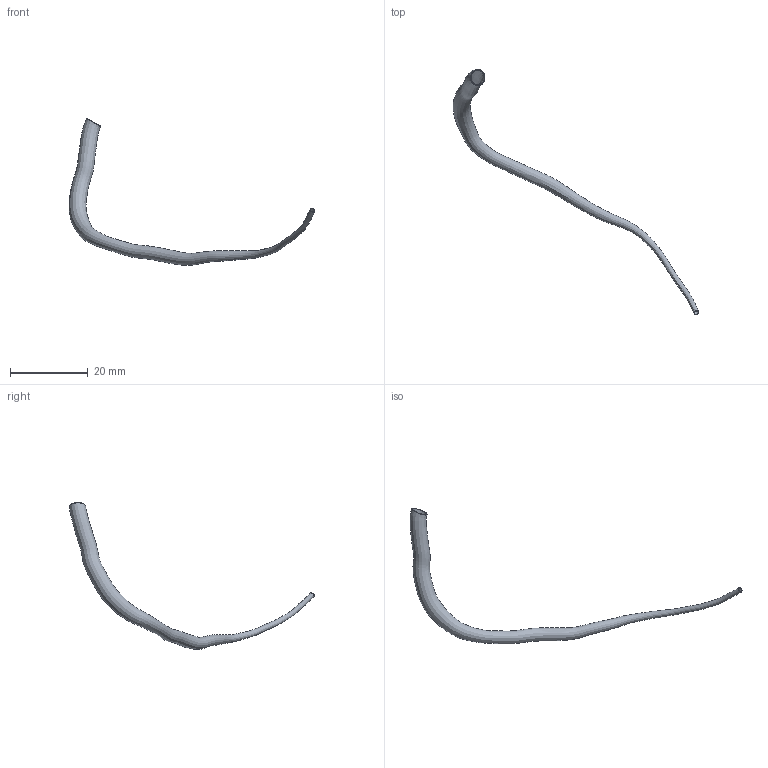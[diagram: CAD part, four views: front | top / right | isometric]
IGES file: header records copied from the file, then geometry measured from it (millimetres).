
Global section: file name: C:\Documents and Settings\Administrator\Desktop\FDA-Pig\Domestic LCA\Pig_000006\lad.seg.ed.igs; native system: Rhinoceros ( May 19 2006 ); preprocessor: Trout Lake IGES 012 May 19 2006; date: 111205.183533; units: centimetre
Bounding box: 63.37 x 63.17 x 37.89 mm (x, y, z)
Surface area: 2094 mm2 (no closed solid volume)
Topology: 0 solids, 0 shells, 4 faces, 13 edges, 10 vertices
Faces by surface type: bspline 4
